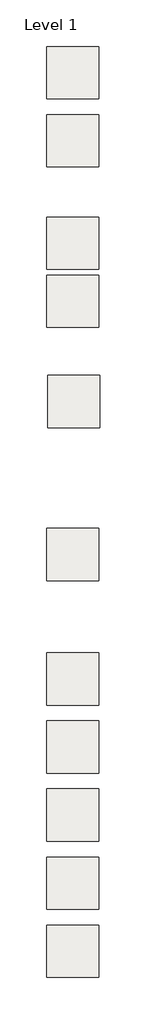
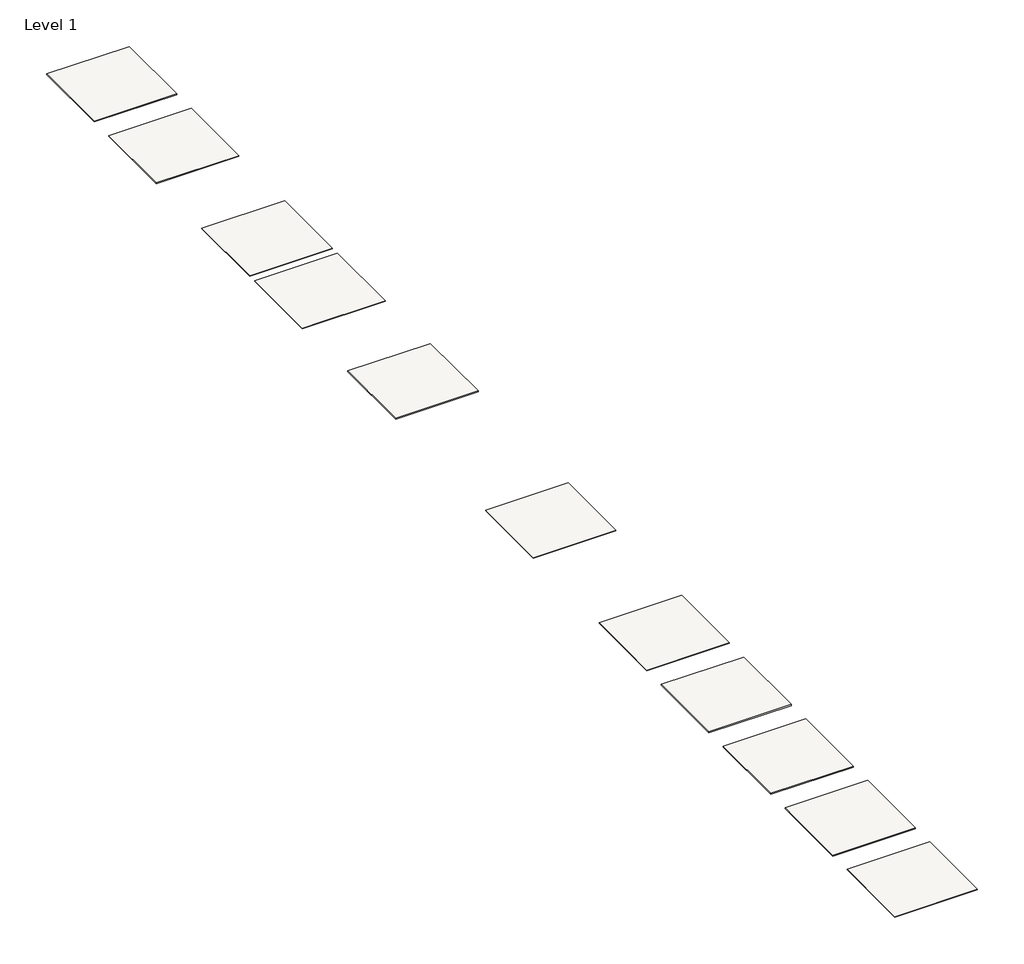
# One storey: 11 slabs.
"""IFC4 building model written with IfcOpenShell, lengths in millimetres."""

from ifc_helpers import new_model, si_unit, frame, origin, place, context, project, spatial, polyline, outline, extrude, element, save

model = new_model("IFC4")

# Units and contexts
model_context = context("Model", 3, world=origin())
ifc_project = project(units=[si_unit("LENGTHUNIT", "METRE", prefix="MILLI")], contexts=[model_context])

# Site, building, storey
site = spatial("IfcSite", under=ifc_project)
building = spatial("IfcBuilding", under=site)
storey = spatial("IfcBuildingStorey", under=building, Name="Level 1", Elevation=0.0)

# Slabs
placement = place(None, origin())
element("IfcSlab", 1, ObjectType="Exterior Decking - Wood - Thermory - Pine Decking 26x115 D4 - Smooth", at=placement, inside=storey, context=model_context, shape_type="SweptSolid", body=[
    extrude(outline(polyline([(-7902.6916977, -17093.8314635), (-10950.6916977, -17093.8314635), (-10950.6916977, -14045.8314635), (-7902.6916977, -14045.8314635), (-7902.6916977, -17093.8314635)])), frame((0.0, 0.0, -26.0), z_axis=(0.0, 0.0, 1.0), x_axis=(1.0, 0.0, 0.0)), (0.0, 0.0, 1.0), 26.0),
])
element("IfcSlab", 2, ObjectType="Exterior Decking - Wood - Thermory - Pine Decking 42x42 D4 - Smooth", at=placement, inside=storey, context=model_context, shape_type="SweptSolid", body=[
    extrude(outline(polyline([(-7902.6916977, -13131.4314635), (-10950.6916977, -13131.4314635), (-10950.6916977, -10083.4314635), (-7902.6916977, -10083.4314635), (-7902.6916977, -13131.4314635)])), frame((0.0, 0.0, -42.0), z_axis=(0.0, 0.0, 1.0), x_axis=(1.0, 0.0, 0.0)), (0.0, 0.0, 1.0), 42.0),
])
element("IfcSlab", 3, ObjectType="Exterior Decking - Wood - Thermory - Pine Decking 42x90 D4 - Smooth", at=placement, inside=storey, context=model_context, shape_type="SweptSolid", body=[
    extrude(outline(polyline([(-7902.6916977, -9169.0314635), (-10950.6916977, -9169.0314635), (-10950.6916977, -6121.0314635), (-7902.6916977, -6121.0314635), (-7902.6916977, -9169.0314635)])), frame((0.0, 0.0, -42.0), z_axis=(0.0, 0.0, 1.0), x_axis=(1.0, 0.0, 0.0)), (0.0, 0.0, 1.0), 42.0),
])
element("IfcSlab", 4, ObjectType="Exterior Decking - Wood - Thermory - Pine Decking 42x140 D4 - Smooth", at=placement, inside=storey, context=model_context, shape_type="SweptSolid", body=[
    extrude(outline(polyline([(-7902.6916977, -5206.6314635), (-10950.6916977, -5206.6314635), (-10950.6916977, -2158.6314635), (-7902.6916977, -2158.6314635), (-7902.6916977, -5206.6314635)])), frame((0.0, 0.0, -42.0), z_axis=(0.0, 0.0, 1.0), x_axis=(1.0, 0.0, 0.0)), (0.0, 0.0, 1.0), 42.0),
])
element("IfcSlab", 5, ObjectType="Exterior Decking - Wood - Thermory - Pine Decking 26x140 D4 - Smooth", at=placement, inside=storey, context=model_context, shape_type="SweptSolid", body=[
    extrude(outline(polyline([(-7902.6916977, -1244.2314635), (-10950.6916977, -1244.2314635), (-10950.6916977, 1803.7685365), (-7902.6916977, 1803.7685365), (-7902.6916977, -1244.2314635)])), frame((0.0, 0.0, -26.0), z_axis=(0.0, 0.0, 1.0), x_axis=(1.0, 0.0, 0.0)), (0.0, 0.0, 1.0), 26.0),
])
element("IfcSlab", 6, ObjectType="Exterior Decking - Wood - Thermory - Pine Decking 26x118 D45J - Smooth", at=placement, inside=storey, context=model_context, shape_type="SweptSolid", body=[
    extrude(outline(polyline([(-7902.6916977, 6000.5685365), (-10950.6916977, 6000.5685365), (-10950.6916977, 9048.5685365), (-7902.6916977, 9048.5685365), (-7902.6916977, 6000.5685365)])), frame((0.0, 0.0, -26.0), z_axis=(0.0, 0.0, 1.0), x_axis=(1.0, 0.0, 0.0)), (0.0, 0.0, 1.0), 26.0),
])
element("IfcSlab", 7, ObjectType="Exterior Decking - Wood - Thermory - Pine Decking 26x140 D30 sg - Smooth", at=placement, inside=storey, context=model_context, shape_type="SweptSolid", body=[
    extrude(outline(polyline([(-7902.6916977, 20751.7685365), (-10950.6916977, 20751.7685365), (-10950.6916977, 23799.7685365), (-7902.6916977, 23799.7685365), (-7902.6916977, 20751.7685365)])), frame((0.0, 0.0, -26.0), z_axis=(0.0, 0.0, 1.0), x_axis=(1.0, 0.0, 0.0)), (0.0, 0.0, 1.0), 26.0),
])
element("IfcSlab", 8, ObjectType="Exterior Decking - Wood - Thermory - Pine Decking 26x115 D4 sg - Smooth", at=placement, inside=storey, context=model_context, shape_type="SweptSolid", body=[
    extrude(outline(polyline([(-7902.6916977, 24130.1685365), (-10950.6916977, 24130.1685365), (-10950.6916977, 27178.1685365), (-7902.6916977, 27178.1685365), (-7902.6916977, 24130.1685365)])), frame((0.0, 0.0, -26.0), z_axis=(0.0, 0.0, 1.0), x_axis=(1.0, 0.0, 0.0)), (0.0, 0.0, 1.0), 26.0),
])
element("IfcSlab", 9, ObjectType="Exterior Decking - Wood - Thermory - Pine Decking 26x140 D4 sg - Smooth", at=placement, inside=storey, context=model_context, shape_type="SweptSolid", body=[
    extrude(outline(polyline([(-7902.6916977, 30092.5685365), (-10950.6916977, 30092.5685365), (-10950.6916977, 33140.5685365), (-7902.6916977, 33140.5685365), (-7902.6916977, 30092.5685365)])), frame((0.0, 0.0, -26.0), z_axis=(0.0, 0.0, 1.0), x_axis=(1.0, 0.0, 0.0)), (0.0, 0.0, 1.0), 26.0),
])
element("IfcSlab", 10, ObjectType="Exterior Decking - Wood - Thermory - Pine Decking 26x118 D45J - Smooth", at=placement, inside=storey, context=model_context, shape_type="SweptSolid", body=[
    extrude(outline(polyline([(-7902.6916977, 34054.9685365), (-10950.6916977, 34054.9685365), (-10950.6916977, 37102.9685365), (-7902.6916977, 37102.9685365), (-7902.6916977, 34054.9685365)])), frame((0.0, 0.0, -26.0), z_axis=(0.0, 0.0, 1.0), x_axis=(1.0, 0.0, 0.0)), (0.0, 0.0, 1.0), 26.0),
])
element("IfcSlab", 11, ObjectType="Exterior Decking - Wood - Thermory - Pine Decking 26x115 D30 sg - Smooth", at=placement, inside=storey, context=model_context, shape_type="SweptSolid", body=[
    extrude(outline(polyline([(-7839.8372489, 14915.3772915), (-10887.8372489, 14915.3772915), (-10887.8372489, 17963.3772915), (-7839.8372489, 17963.3772915), (-7839.8372489, 14915.3772915)])), frame((0.0, 0.0, -26.0), z_axis=(0.0, 0.0, 1.0), x_axis=(1.0, 0.0, 0.0)), (0.0, 0.0, 1.0), 26.0),
])

save(model, "model.ifc")
